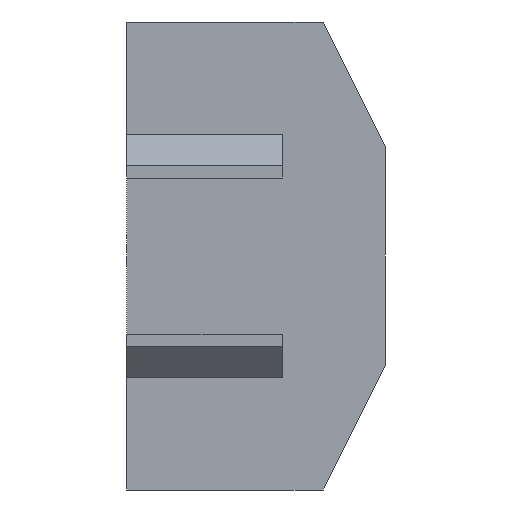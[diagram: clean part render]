
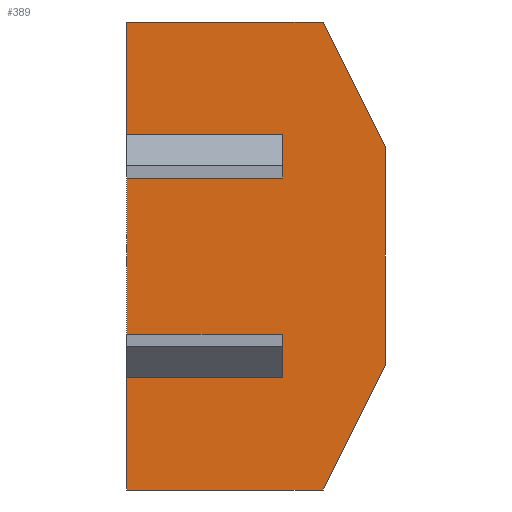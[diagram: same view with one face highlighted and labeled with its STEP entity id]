
A CAD part, left-side view. The second image highlights one B-rep face of the part: STEP entity #389.
In plain terms, the highlighted planar face has unit normal (-1, 0, 0).
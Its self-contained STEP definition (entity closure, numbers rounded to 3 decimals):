
#27=FACE_OUTER_BOUND('',#48,.T.);
#48=EDGE_LOOP('',(#271,#272,#273,#274,#275,#276,#277,#278,#279,#280,#281,
#282,#283,#284));
#72=LINE('',#557,#122);
#77=LINE('',#569,#127);
#80=LINE('',#575,#130);
#81=LINE('',#577,#131);
#82=LINE('',#579,#132);
#83=LINE('',#581,#133);
#84=LINE('',#583,#134);
#85=LINE('',#585,#135);
#86=LINE('',#586,#136);
#87=LINE('',#588,#137);
#88=LINE('',#590,#138);
#89=LINE('',#592,#139);
#90=LINE('',#594,#140);
#91=LINE('',#595,#141);
#122=VECTOR('',#453,10.);
#127=VECTOR('',#462,10.);
#130=VECTOR('',#467,10.);
#131=VECTOR('',#468,10.);
#132=VECTOR('',#469,10.);
#133=VECTOR('',#470,10.);
#134=VECTOR('',#471,10.);
#135=VECTOR('',#472,10.);
#136=VECTOR('',#473,10.);
#137=VECTOR('',#474,10.);
#138=VECTOR('',#475,10.);
#139=VECTOR('',#476,10.);
#140=VECTOR('',#477,10.);
#141=VECTOR('',#478,10.);
#169=VERTEX_POINT('',#550);
#172=VERTEX_POINT('',#555);
#176=VERTEX_POINT('',#566);
#177=VERTEX_POINT('',#568);
#179=VERTEX_POINT('',#574);
#180=VERTEX_POINT('',#576);
#181=VERTEX_POINT('',#578);
#182=VERTEX_POINT('',#580);
#183=VERTEX_POINT('',#582);
#184=VERTEX_POINT('',#584);
#185=VERTEX_POINT('',#587);
#186=VERTEX_POINT('',#589);
#187=VERTEX_POINT('',#591);
#188=VERTEX_POINT('',#593);
#208=EDGE_CURVE('',#172,#169,#72,.T.);
#213=EDGE_CURVE('',#176,#177,#77,.T.);
#216=EDGE_CURVE('',#172,#179,#80,.T.);
#217=EDGE_CURVE('',#179,#180,#81,.T.);
#218=EDGE_CURVE('',#181,#180,#82,.T.);
#219=EDGE_CURVE('',#182,#181,#83,.T.);
#220=EDGE_CURVE('',#183,#182,#84,.T.);
#221=EDGE_CURVE('',#184,#183,#85,.T.);
#222=EDGE_CURVE('',#184,#177,#86,.T.);
#223=EDGE_CURVE('',#176,#185,#87,.T.);
#224=EDGE_CURVE('',#185,#186,#88,.T.);
#225=EDGE_CURVE('',#186,#187,#89,.T.);
#226=EDGE_CURVE('',#187,#188,#90,.T.);
#227=EDGE_CURVE('',#188,#169,#91,.T.);
#271=ORIENTED_EDGE('',*,*,#208,.F.);
#272=ORIENTED_EDGE('',*,*,#216,.T.);
#273=ORIENTED_EDGE('',*,*,#217,.T.);
#274=ORIENTED_EDGE('',*,*,#218,.F.);
#275=ORIENTED_EDGE('',*,*,#219,.F.);
#276=ORIENTED_EDGE('',*,*,#220,.F.);
#277=ORIENTED_EDGE('',*,*,#221,.F.);
#278=ORIENTED_EDGE('',*,*,#222,.T.);
#279=ORIENTED_EDGE('',*,*,#213,.F.);
#280=ORIENTED_EDGE('',*,*,#223,.T.);
#281=ORIENTED_EDGE('',*,*,#224,.T.);
#282=ORIENTED_EDGE('',*,*,#225,.T.);
#283=ORIENTED_EDGE('',*,*,#226,.T.);
#284=ORIENTED_EDGE('',*,*,#227,.T.);
#370=PLANE('',#424);
#389=ADVANCED_FACE('',(#27),#370,.T.);
#424=AXIS2_PLACEMENT_3D('',#573,#465,#466);
#453=DIRECTION('',(0.,-1.,0.));
#462=DIRECTION('',(0.,1.,0.));
#465=DIRECTION('center_axis',(-1.,0.,0.));
#466=DIRECTION('ref_axis',(0.,0.,-1.));
#467=DIRECTION('',(0.,0.,-1.));
#468=DIRECTION('',(0.,-1.,0.));
#469=DIRECTION('',(0.,0.447,-0.894));
#470=DIRECTION('',(0.,0.,-1.));
#471=DIRECTION('',(0.,-0.447,-0.894));
#472=DIRECTION('',(0.,-1.,0.));
#473=DIRECTION('',(0.,0.,-1.));
#474=DIRECTION('',(0.,0.,-1.));
#475=DIRECTION('',(0.,1.,0.));
#476=DIRECTION('',(0.,0.,-1.));
#477=DIRECTION('',(0.,-1.,0.));
#478=DIRECTION('',(0.,0.,-1.));
#550=CARTESIAN_POINT('',(262.502,654.966,670.5));
#555=CARTESIAN_POINT('',(262.502,679.966,670.5));
#557=CARTESIAN_POINT('',(262.502,679.966,670.5));
#566=CARTESIAN_POINT('',(262.502,654.966,709.5));
#568=CARTESIAN_POINT('',(262.502,679.966,709.5));
#569=CARTESIAN_POINT('',(262.502,679.966,709.5));
#573=CARTESIAN_POINT('Origin',(262.502,679.966,727.5));
#574=CARTESIAN_POINT('',(262.502,679.966,652.5));
#575=CARTESIAN_POINT('',(262.502,679.966,727.5));
#576=CARTESIAN_POINT('',(262.502,648.466,652.5));
#577=CARTESIAN_POINT('',(262.502,679.966,652.5));
#578=CARTESIAN_POINT('',(262.502,638.466,672.5));
#579=CARTESIAN_POINT('',(262.502,634.116,681.2));
#580=CARTESIAN_POINT('',(262.502,638.466,707.5));
#581=CARTESIAN_POINT('',(262.502,638.466,727.5));
#582=CARTESIAN_POINT('',(262.502,648.466,727.5));
#583=CARTESIAN_POINT('',(262.502,649.116,728.8));
#584=CARTESIAN_POINT('',(262.502,679.966,727.5));
#585=CARTESIAN_POINT('',(262.502,679.966,727.5));
#586=CARTESIAN_POINT('',(262.502,679.966,727.5));
#587=CARTESIAN_POINT('',(262.502,654.966,702.5));
#588=CARTESIAN_POINT('',(262.502,654.966,715.5));
#589=CARTESIAN_POINT('',(262.502,679.966,702.5));
#590=CARTESIAN_POINT('',(262.502,679.966,702.5));
#591=CARTESIAN_POINT('',(262.502,679.966,677.5));
#592=CARTESIAN_POINT('',(262.502,679.966,727.5));
#593=CARTESIAN_POINT('',(262.502,654.966,677.5));
#594=CARTESIAN_POINT('',(262.502,679.966,677.5));
#595=CARTESIAN_POINT('',(262.502,654.966,702.));
